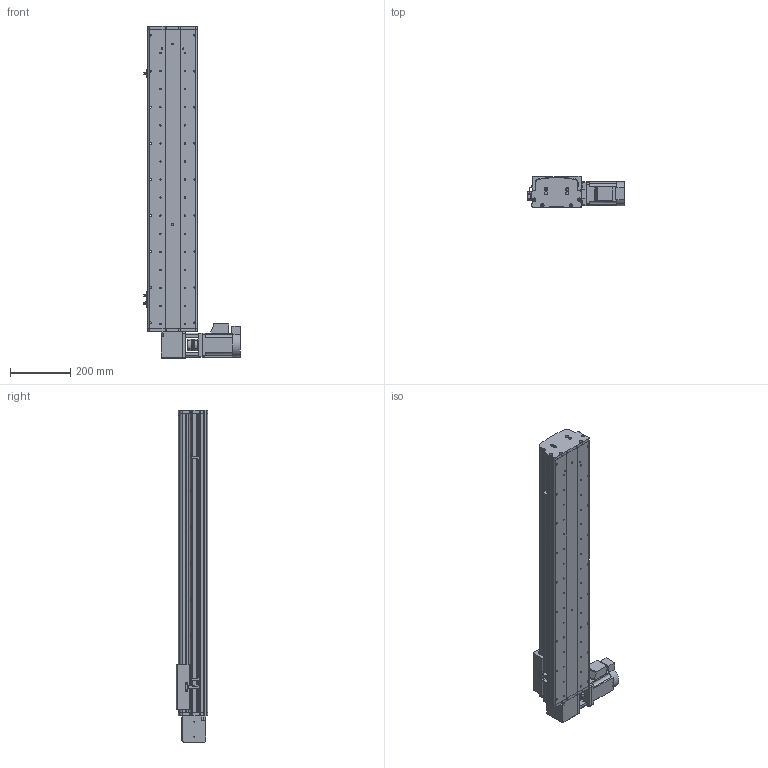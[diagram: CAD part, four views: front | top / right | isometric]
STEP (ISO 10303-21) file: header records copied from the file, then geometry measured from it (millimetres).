
FILE_DESCRIPTION (( 'STEP AP214' ), '1' );
FILE_NAME ('KSD165B-S750-MRT-CM.STEP', '2017-08-14T05:52:42', ( '微软用户' ), ( '微软中国' ), 'SwSTEP 2.0', 'SolidWorks 2014', '' );
FILE_SCHEMA (( 'AUTOMOTIVE_DESIGN' ));
Length unit declared in the file: millimetre
Products named in the file (16): KSD165模组-后端板1-同步带; 130宽马达安装板1-带电机座750W（1）; KSD165模组-同步带滑动座-最新版; KSD165B-S750-MRT-CM; KSD165模组-同步带防尘盖1-750行程-最新版; KSD165模组同步带底板-750行程-最新; 拸秶雄ん750W侜督萇儂; 165宽安装板同步带带电机座750W; 165宽马达安装板同步带右; C39ㄜ1419WP; U倰嫖萇假蚾璃; U倰嫖萇EEㄜSX672; 覜茼え68遵圉猾敕; KSD165模组-同步带-防撞垫2; KSD165模组同步带-防撞垫1; KSD165耀郪-ヶ傷啣1-肮祭湍
Assembly tree (19 placements, depth 2):
  KSD165B-S750-MRT-CM
    KSD165模组-同步带滑动座-最新版
    130宽马达安装板1-带电机座750W（1）
    KSD165模组-后端板1-同步带
    KSD165耀郪-ヶ傷啣1-肮祭湍
    KSD165模组同步带-防撞垫1
    KSD165模组-同步带-防撞垫2
    覜茼え68遵圉猾敕
    U倰嫖萇EEㄜSX672  x3
    U倰嫖萇假蚾璃  x3
    C39ㄜ1419WP
    165宽马达安装板同步带右
    165宽安装板同步带带电机座750W
    拸秶雄ん750W侜督萇儂
    KSD165模组同步带底板-750行程-最新
    KSD165模组-同步带防尘盖1-750行程-最新版
Bounding box: 321.2 x 104 x 1104 mm (x, y, z)
Volume: 6756738.5 mm3; surface area: 1515690.1 mm2
Topology: 20 solids, 20 shells, 1478 faces, 4110 edges, 2661 vertices
Faces by surface type: cylinder 807, plane 577, cone 94
Entity records: 46903 total; most frequent: CARTESIAN_POINT 9833, DIRECTION 7296, ORIENTED_EDGE 6872, EDGE_CURVE 3436, AXIS2_PLACEMENT_3D 2772, VERTEX_POINT 2253, LINE 1752, VECTOR 1752
